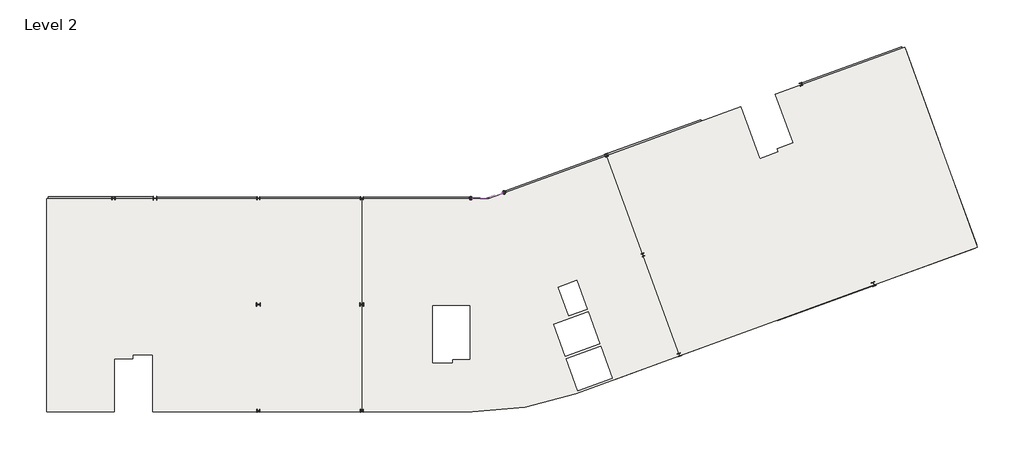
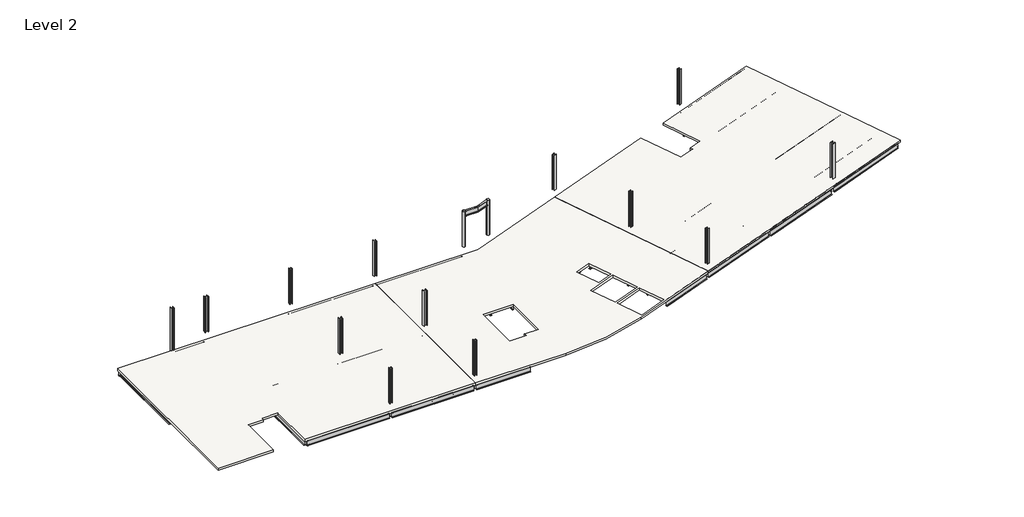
# One storey: 87 beams, 15 columns, 1 slab.
"""IFC4 building model written with IfcOpenShell, lengths in millimetres."""

from ifc_helpers import new_model, si_unit, point, frame, frame_2d, origin, place, context, project, spatial, polyline, circle_curve, trimmed, segment, composite_curve, outline, extrude, transform, mapped, element, save
from components import beam_fb4f222d, ub_universal_beams_ub305x127x37_f823aa85, ub_universal_beams_ub305x127x37_cdbcbb51, ub_universal_beams_ub305x127x37_8d1efc97, ub_universal_beams_ub305x127x37_2b7a043a, ub_universal_beams_ub305x127x37_8d2b0bf5, ub_universal_beams_ub305x127x37_777f85ab, ub_universal_beams_ub305x127x37_16a75a32, ub_universal_beams_ub305x127x37_b9a7bbe5, ub_universal_beams_ub305x127x37_60794b88, ub_universal_beams_ub305x127x37_0c249d50, ub_universal_beams_ub457x152x67_a95554c7, ub_universal_beams_ub457x152x67_b6dbdd7a, ub_universal_beams_ub457x152x67_9ada3ad7, ub_universal_beams_ub457x152x67_885cc86f, ub_universal_beams_ub457x152x67_c84566a2, ub_universal_beams_ub457x152x67_4841b023, ub_universal_beams_ub457x152x67_20791346, ub_universal_beams_ub457x152x67_59459dd6, ub_universal_beams_ub457x152x67_568b5c51, ub_universal_beams_ub457x152x67_e00400c9, ub_universal_beams_ub457x152x67_2db27d90, ub_universal_beams_ub457x152x67_feb0265b, ub_universal_beams_ub457x152x67_78ad538f, ub_universal_beams_ub457x152x67_801fcbf0, ub_universal_beams_ub457x152x67_7192e0ee, ub_universal_beams_ub457x152x67_f5dc209c, ub_universal_beams_ub457x152x67_21f5ef47, ub_universal_beams_ub457x152x67_7b4bcd9a, ub_universal_beams_ub457x152x67_37de3949, ub_universal_beams_ub457x152x67_656765b2, ub_universal_beams_ub457x152x67_43212cfb, ub_universal_beams_ub457x152x67_25e113f4, ub_universal_beams_ub457x152x67_bf94d013, ub_universal_beams_ub457x152x67_e915e172, ub_universal_beams_ub457x152x67_18d3feb0, ub_universal_beams_ub457x152x67_e0a47d06, ub_universal_beams_ub457x152x67_f862a4b8, ub_universal_beams_ub457x152x67_813faa96, ub_universal_beams_ub457x152x67_c91190e6, ub_universal_beams_ub533x210x82_8ec85ef7, ub_universal_beams_ub533x210x82_0fc11a2d, ub_universal_beams_ub533x210x82_892b370d, circular_hollow_sections_column_chs244_5x6_3_55d45f16, uc_universal_columns_column_uc203x203x71_df0e8a14, uc_universal_columns_column_uc254x254x132_67913ea7

model = new_model("IFC4")

# Units and contexts
model_context = context("Model", 3, world=origin())
ifc_project = project(units=[si_unit("LENGTHUNIT", "METRE", prefix="MILLI")], contexts=[model_context])

# Site, building, storey
site = spatial("IfcSite", under=ifc_project)
building = spatial("IfcBuilding", under=site)
storey = spatial("IfcBuildingStorey", under=building, Name="Level 2", Elevation=7595.0)

# Beams
placement = place(None, origin())
beam_shape = beam_fb4f222d(model_context)
element("IfcBeam", 1, ObjectType="Cranked Beam B3 : Cranked Beam B1", at=placement, inside=storey, context=model_context, shape_type="MappedRepresentation", body=[
    mapped(beam_shape, transform((0.0, 0.0, 0.0), x_axis=(1.0, 0.0, 0.0), y_axis=(0.0, 1.0, 0.0), z_axis=(0.0, 0.0, 1.0))),
])
ub_universal_beams_ub305x127x37_shape = ub_universal_beams_ub305x127x37_f823aa85(model_context)
element("IfcBeam", 2, ObjectType="UB-Universal Beams : UB305x127x37", at=placement, inside=storey, context=model_context, shape_type="MappedRepresentation", body=[
    mapped(ub_universal_beams_ub305x127x37_shape, transform((9887.2000022, 11613.2000005, 7442.8), x_axis=(0.0, 1.0, 0.0), y_axis=(-1.0, 0.0, 0.0), z_axis=(0.0, 0.0, 1.0))),
])
element("IfcBeam", 3, ObjectType="UB-Universal Beams : UB305x127x37", at=placement, inside=storey, context=model_context, shape_type="MappedRepresentation", body=[
    mapped(ub_universal_beams_ub305x127x37_shape, transform((11712.2000022, 11613.2000005, 7442.8), x_axis=(0.0, 1.0, 0.0), y_axis=(-1.0, 0.0, 0.0), z_axis=(0.0, 0.0, 1.0))),
])
element("IfcBeam", 4, ObjectType="UB-Universal Beams : UB305x127x37", at=placement, inside=storey, context=model_context, shape_type="MappedRepresentation", body=[
    mapped(ub_universal_beams_ub305x127x37_shape, transform((13537.2000023, 11613.2000005, 7442.8), x_axis=(0.0, 1.0, 0.0), y_axis=(-1.0, 0.0, 0.0), z_axis=(0.0, 0.0, 1.0))),
])
element("IfcBeam", 5, ObjectType="UB-Universal Beams : UB305x127x37", at=placement, inside=storey, context=model_context, shape_type="MappedRepresentation", body=[
    mapped(ub_universal_beams_ub305x127x37_shape, transform((17187.2000023, 11613.2000005, 7442.8), x_axis=(0.0, 1.0, 0.0), y_axis=(-1.0, 0.0, 0.0), z_axis=(0.0, 0.0, 1.0))),
])
element("IfcBeam", 6, ObjectType="UB-Universal Beams : UB305x127x37", at=placement, inside=storey, context=model_context, shape_type="MappedRepresentation", body=[
    mapped(ub_universal_beams_ub305x127x37_shape, transform((19012.2000023, 11613.2000005, 7442.8), x_axis=(0.0, 1.0, 0.0), y_axis=(-1.0, 0.0, 0.0), z_axis=(0.0, 0.0, 1.0))),
])
element("IfcBeam", 7, ObjectType="UB-Universal Beams : UB305x127x37", at=placement, inside=storey, context=model_context, shape_type="MappedRepresentation", body=[
    mapped(ub_universal_beams_ub305x127x37_shape, transform((20837.2000022, 11613.2000005, 7442.8), x_axis=(0.0, 1.0, 0.0), y_axis=(-1.0, 0.0, 0.0), z_axis=(0.0, 0.0, 1.0))),
])
element("IfcBeam", 8, ObjectType="UB-Universal Beams : UB305x127x37", at=placement, inside=storey, context=model_context, shape_type="MappedRepresentation", body=[
    mapped(ub_universal_beams_ub305x127x37_shape, transform((24587.2000022, 11613.2000005, 7442.8), x_axis=(0.0, 1.0, 0.0), y_axis=(-1.0, 0.0, 0.0), z_axis=(0.0, 0.0, 1.0))),
])
element("IfcBeam", 9, ObjectType="UB-Universal Beams : UB305x127x37", at=placement, inside=storey, context=model_context, shape_type="MappedRepresentation", body=[
    mapped(ub_universal_beams_ub305x127x37_shape, transform((26512.2000022, 11613.2000005, 7442.8), x_axis=(0.0, 1.0, 0.0), y_axis=(-1.0, 0.0, 0.0), z_axis=(0.0, 0.0, 1.0))),
])
element("IfcBeam", 10, ObjectType="UB-Universal Beams : UB305x127x37", at=placement, inside=storey, context=model_context, shape_type="MappedRepresentation", body=[
    mapped(ub_universal_beams_ub305x127x37_shape, transform((17187.2000022, 4113.2000005, 7442.8), x_axis=(0.0, 1.0, 0.0), y_axis=(-1.0, 0.0, 0.0), z_axis=(0.0, 0.0, 1.0))),
])
element("IfcBeam", 11, ObjectType="UB-Universal Beams : UB305x127x37", at=placement, inside=storey, context=model_context, shape_type="MappedRepresentation", body=[
    mapped(ub_universal_beams_ub305x127x37_shape, transform((19012.2000022, 4113.2000005, 7442.8), x_axis=(0.0, 1.0, 0.0), y_axis=(-1.0, 0.0, 0.0), z_axis=(0.0, 0.0, 1.0))),
])
element("IfcBeam", 12, ObjectType="UB-Universal Beams : UB305x127x37", at=placement, inside=storey, context=model_context, shape_type="MappedRepresentation", body=[
    mapped(ub_universal_beams_ub305x127x37_shape, transform((20837.2000022, 4113.2000005, 7442.8), x_axis=(0.0, 1.0, 0.0), y_axis=(-1.0, 0.0, 0.0), z_axis=(0.0, 0.0, 1.0))),
])
element("IfcBeam", 13, ObjectType="UB-Universal Beams : UB305x127x37", at=placement, inside=storey, context=model_context, shape_type="MappedRepresentation", body=[
    mapped(ub_universal_beams_ub305x127x37_shape, transform((24587.2000022, 4113.2000004, 7442.8), x_axis=(0.0, 1.0, 0.0), y_axis=(-1.0, 0.0, 0.0), z_axis=(0.0, 0.0, 1.0))),
])
element("IfcBeam", 14, ObjectType="UB-Universal Beams : UB305x127x37", at=placement, inside=storey, context=model_context, shape_type="MappedRepresentation", body=[
    mapped(ub_universal_beams_ub305x127x37_shape, transform((26512.2000022, 4113.2000004, 7442.8), x_axis=(0.0, 1.0, 0.0), y_axis=(-1.0, 0.0, 0.0), z_axis=(0.0, 0.0, 1.0))),
])
element("IfcBeam", 15, ObjectType="UB-Universal Beams : UB305x127x37", at=placement, inside=storey, context=model_context, shape_type="MappedRepresentation", body=[
    mapped(ub_universal_beams_ub305x127x37_shape, transform((39409.0148654, 14226.6858637, 7442.8), x_axis=(0.34202014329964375, -0.9396926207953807, 0.0), y_axis=(0.9396926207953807, 0.34202014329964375, 0.0), z_axis=(0.0, 0.0, 1.0))),
])
element("IfcBeam", 16, ObjectType="UB-Universal Beams : UB305x127x37", at=placement, inside=storey, context=model_context, shape_type="MappedRepresentation", body=[
    mapped(ub_universal_beams_ub305x127x37_shape, transform((37600.1065704, 13568.2970878, 7442.8), x_axis=(0.34202014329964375, -0.9396926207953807, 0.0), y_axis=(0.9396926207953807, 0.34202014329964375, 0.0), z_axis=(0.0, 0.0, 1.0))),
])
element("IfcBeam", 17, ObjectType="UB-Universal Beams : UB305x127x37", at=placement, inside=storey, context=model_context, shape_type="MappedRepresentation", body=[
    mapped(ub_universal_beams_ub305x127x37_shape, transform((42915.2429568, 15502.8485233, 7442.8), x_axis=(-0.3420201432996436, 0.9396926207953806, 0.0), y_axis=(-0.9396926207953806, -0.3420201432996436, 0.0), z_axis=(0.0, 0.0, 1.0))),
])
element("IfcBeam", 18, ObjectType="UB-Universal Beams : UB305x127x37", at=placement, inside=storey, context=model_context, shape_type="MappedRepresentation", body=[
    mapped(ub_universal_beams_ub305x127x37_shape, transform((44612.5627531, 16120.6224071, 7442.8), x_axis=(-0.34202014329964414, 0.9396926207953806, 0.0), y_axis=(-0.9396926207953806, -0.34202014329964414, 0.0), z_axis=(0.0, 0.0, 1.0))),
])
element("IfcBeam", 19, ObjectType="UB-Universal Beams : UB305x127x37", at=placement, inside=storey, context=model_context, shape_type="MappedRepresentation", body=[
    mapped(ub_universal_beams_ub305x127x37_shape, transform((46309.8825494, 16738.396291, 7442.8), x_axis=(-0.34202014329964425, 0.9396926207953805, 0.0), y_axis=(-0.9396926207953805, -0.34202014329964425, 0.0), z_axis=(0.0, 0.0, 1.0))),
])
ub_universal_beams_ub305x127x37_2_shape = ub_universal_beams_ub305x127x37_cdbcbb51(model_context)
element("IfcBeam", 20, ObjectType="UB-Universal Beams : UB305x127x37", at=placement, inside=storey, context=model_context, shape_type="MappedRepresentation", body=[
    mapped(ub_universal_beams_ub305x127x37_2_shape, transform((28437.2000022, 11613.2000005, 7442.8), x_axis=(0.0, 1.0, 0.0), y_axis=(-1.0, 0.0, 0.0), z_axis=(0.0, 0.0, 1.0))),
])
ub_universal_beams_ub305x127x37_3_shape = ub_universal_beams_ub305x127x37_8d1efc97(model_context)
element("IfcBeam", 21, ObjectType="UB-Universal Beams : UB305x127x37", at=placement, inside=storey, context=model_context, shape_type="MappedRepresentation", body=[
    mapped(ub_universal_beams_ub305x127x37_3_shape, transform((35791.1982754, 12909.908312, 7442.8), x_axis=(0.3420201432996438, -0.9396926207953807, 0.0), y_axis=(0.9396926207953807, 0.3420201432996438, 0.0), z_axis=(0.0, 0.0, 1.0))),
])
ub_universal_beams_ub305x127x37_4_shape = ub_universal_beams_ub305x127x37_2b7a043a(model_context)
element("IfcBeam", 22, ObjectType="UB-Universal Beams : UB305x127x37", at=placement, inside=storey, context=model_context, shape_type="MappedRepresentation", body=[
    mapped(ub_universal_beams_ub305x127x37_4_shape, transform((42122.1150828, 5237.5069684, 7442.8), x_axis=(-0.939692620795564, -0.3420201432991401, 0.0), y_axis=(0.3420201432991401, -0.939692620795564, 0.0), z_axis=(0.0, 0.0, 1.0))),
])
element("IfcBeam", 23, ObjectType="UB-Universal Beams : UB305x127x37", at=placement, inside=storey, context=model_context, shape_type="MappedRepresentation", body=[
    mapped(ub_universal_beams_ub305x127x37_4_shape, transform((41480.8273141, 6999.4306323, 7442.8), x_axis=(-0.9396926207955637, -0.3420201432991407, 0.0), y_axis=(0.3420201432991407, -0.9396926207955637, 0.0), z_axis=(0.0, 0.0, 1.0))),
])
element("IfcBeam", 24, ObjectType="UB-Universal Beams : UB305x127x37", at=placement, inside=storey, context=model_context, shape_type="MappedRepresentation", body=[
    mapped(ub_universal_beams_ub305x127x37_4_shape, transform((40839.5395455, 8761.3542963, 7442.8), x_axis=(-0.939692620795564, -0.3420201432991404, 0.0), y_axis=(0.3420201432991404, -0.939692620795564, 0.0), z_axis=(0.0, 0.0, 1.0))),
])
ub_universal_beams_ub305x127x37_5_shape = ub_universal_beams_ub305x127x37_8d2b0bf5(model_context)
element("IfcBeam", 25, ObjectType="UB-Universal Beams : UB305x127x37", at=placement, inside=storey, context=model_context, shape_type="MappedRepresentation", body=[
    mapped(ub_universal_beams_ub305x127x37_5_shape, transform((46536.4260592, 10834.8514152, 7442.8), x_axis=(0.9396926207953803, 0.342020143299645, 0.0), y_axis=(-0.342020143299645, 0.9396926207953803, 0.0), z_axis=(0.0, 0.0, 1.0))),
])
element("IfcBeam", 26, ObjectType="UB-Universal Beams : UB305x127x37", at=placement, inside=storey, context=model_context, shape_type="MappedRepresentation", body=[
    mapped(ub_universal_beams_ub305x127x37_5_shape, transform((47177.7138279, 9072.9277512, 7442.8), x_axis=(0.9396926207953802, 0.34202014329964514, 0.0), y_axis=(-0.34202014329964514, 0.9396926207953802, 0.0), z_axis=(0.0, 0.0, 1.0))),
])
element("IfcBeam", 27, ObjectType="UB-Universal Beams : UB305x127x37", at=placement, inside=storey, context=model_context, shape_type="MappedRepresentation", body=[
    mapped(ub_universal_beams_ub305x127x37_5_shape, transform((47819.0015966, 7311.0040872, 7442.8), x_axis=(0.9396926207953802, 0.3420201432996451, 0.0), y_axis=(-0.3420201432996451, 0.9396926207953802, 0.0), z_axis=(0.0, 0.0, 1.0))),
])
ub_universal_beams_ub305x127x37_6_shape = ub_universal_beams_ub305x127x37_777f85ab(model_context)
element("IfcBeam", 28, ObjectType="UB-Universal Beams : UB305x127x37", at=placement, inside=storey, context=model_context, shape_type="MappedRepresentation", body=[
    mapped(ub_universal_beams_ub305x127x37_6_shape, transform((60479.1153202, 15909.5752914, 7442.8), x_axis=(0.9396926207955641, 0.34202014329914, 0.0), y_axis=(-0.34202014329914, 0.9396926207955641, 0.0), z_axis=(0.0, 0.0, 1.0))),
])
element("IfcBeam", 29, ObjectType="UB-Universal Beams : UB305x127x37", at=placement, inside=storey, context=model_context, shape_type="MappedRepresentation", body=[
    mapped(ub_universal_beams_ub305x127x37_6_shape, transform((61120.4030889, 14147.6516274, 7442.8), x_axis=(0.9396926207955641, 0.34202014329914, 0.0), y_axis=(-0.34202014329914, 0.9396926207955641, 0.0), z_axis=(0.0, 0.0, 1.0))),
])
element("IfcBeam", 30, ObjectType="UB-Universal Beams : UB305x127x37", at=placement, inside=storey, context=model_context, shape_type="MappedRepresentation", body=[
    mapped(ub_universal_beams_ub305x127x37_6_shape, transform((61761.6908576, 12385.7279634, 7442.8), x_axis=(0.9396926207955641, 0.3420201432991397, 0.0), y_axis=(-0.3420201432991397, 0.9396926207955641, 0.0), z_axis=(0.0, 0.0, 1.0))),
])
element("IfcBeam", 31, ObjectType="UB-Universal Beams : UB305x127x37", at=placement, inside=storey, context=model_context, shape_type="MappedRepresentation", body=[
    mapped(ub_universal_beams_ub305x127x37_6_shape, transform((57913.9642455, 22957.2699473, 7442.8), x_axis=(0.9396926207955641, 0.3420201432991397, 0.0), y_axis=(-0.3420201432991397, 0.9396926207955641, 0.0), z_axis=(0.0, 0.0, 1.0))),
])
element("IfcBeam", 32, ObjectType="UB-Universal Beams : UB305x127x37", at=placement, inside=storey, context=model_context, shape_type="MappedRepresentation", body=[
    mapped(ub_universal_beams_ub305x127x37_6_shape, transform((58555.2520142, 21195.3462833, 7442.8), x_axis=(0.9396926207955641, 0.3420201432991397, 0.0), y_axis=(-0.3420201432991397, 0.9396926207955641, 0.0), z_axis=(0.0, 0.0, 1.0))),
])
element("IfcBeam", 33, ObjectType="UB-Universal Beams : UB305x127x37", at=placement, inside=storey, context=model_context, shape_type="MappedRepresentation", body=[
    mapped(ub_universal_beams_ub305x127x37_6_shape, transform((59196.5397829, 19433.4226193, 7442.8), x_axis=(0.9396926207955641, 0.3420201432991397, 0.0), y_axis=(-0.3420201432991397, 0.9396926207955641, 0.0), z_axis=(0.0, 0.0, 1.0))),
])
ub_universal_beams_ub305x127x37_7_shape = ub_universal_beams_ub305x127x37_16a75a32(model_context)
element("IfcBeam", 34, ObjectType="UB-Universal Beams : UB305x127x37", at=placement, inside=storey, context=model_context, shape_type="MappedRepresentation", body=[
    mapped(ub_universal_beams_ub305x127x37_7_shape, transform((52185.7228693, 11321.365084, 7442.8), x_axis=(0.9396926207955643, 0.3420201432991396, 0.0), y_axis=(-0.3420201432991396, 0.9396926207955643, 0.0), z_axis=(0.0, 0.0, 1.0))),
])
element("IfcBeam", 35, ObjectType="UB-Universal Beams : UB305x127x37", at=placement, inside=storey, context=model_context, shape_type="MappedRepresentation", body=[
    mapped(ub_universal_beams_ub305x127x37_7_shape, transform((51681.2431579, 12707.4116997, 7442.8), x_axis=(0.9396926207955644, 0.34202014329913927, 0.0), y_axis=(-0.34202014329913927, 0.9396926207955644, 0.0), z_axis=(0.0, 0.0, 1.0))),
])
ub_universal_beams_ub305x127x37_8_shape = ub_universal_beams_ub305x127x37_b9a7bbe5(model_context)
element("IfcBeam", 36, ObjectType="UB-Universal Beams : UB305x127x37", at=placement, inside=storey, context=model_context, shape_type="MappedRepresentation", body=[
    mapped(ub_universal_beams_ub305x127x37_8_shape, transform((55650.8394085, 12582.5643624, 7442.8), x_axis=(0.939692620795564, 0.34202014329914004, 0.0), y_axis=(-0.34202014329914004, 0.939692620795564, 0.0), z_axis=(0.0, 0.0, 1.0))),
])
element("IfcBeam", 37, ObjectType="UB-Universal Beams : UB305x127x37", at=placement, inside=storey, context=model_context, shape_type="MappedRepresentation", body=[
    mapped(ub_universal_beams_ub305x127x37_8_shape, transform((56300.6776807, 10797.1483829, 7442.8), x_axis=(0.9396926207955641, 0.3420201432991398, 0.0), y_axis=(-0.3420201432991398, 0.9396926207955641, 0.0), z_axis=(0.0, 0.0, 1.0))),
])
element("IfcBeam", 38, ObjectType="UB-Universal Beams : UB305x127x37", at=placement, inside=storey, context=model_context, shape_type="MappedRepresentation", body=[
    mapped(ub_universal_beams_ub305x127x37_8_shape, transform((55146.3596971, 13968.6109781, 7442.8), x_axis=(0.9396926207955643, 0.34202014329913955, 0.0), y_axis=(-0.34202014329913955, 0.9396926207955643, 0.0), z_axis=(0.0, 0.0, 1.0))),
])
ub_universal_beams_ub305x127x37_9_shape = ub_universal_beams_ub305x127x37_60794b88(model_context)
element("IfcBeam", 39, ObjectType="UB-Universal Beams : UB305x127x37", at=placement, inside=storey, context=model_context, shape_type="MappedRepresentation", body=[
    mapped(ub_universal_beams_ub305x127x37_9_shape, transform((53431.3248942, 21325.7226526, 7442.8), x_axis=(-0.939692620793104, -0.34202014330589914, 0.0), y_axis=(0.34202014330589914, -0.939692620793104, 0.0), z_axis=(0.0, 0.0, 1.0))),
])
element("IfcBeam", 40, ObjectType="UB-Universal Beams : UB305x127x37", at=placement, inside=storey, context=model_context, shape_type="MappedRepresentation", body=[
    mapped(ub_universal_beams_ub305x127x37_9_shape, transform((54072.6126629, 19563.7989886, 7442.8), x_axis=(-0.939692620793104, -0.3420201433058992, 0.0), y_axis=(0.3420201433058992, -0.939692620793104, 0.0), z_axis=(0.0, 0.0, 1.0))),
])
element("IfcBeam", 41, ObjectType="UB-Universal Beams : UB305x127x37", at=placement, inside=storey, context=model_context, shape_type="MappedRepresentation", body=[
    mapped(ub_universal_beams_ub305x127x37_9_shape, transform((54713.9004316, 17801.8753247, 7442.8), x_axis=(-0.939692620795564, -0.34202014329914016, 0.0), y_axis=(0.34202014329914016, -0.939692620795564, 0.0), z_axis=(0.0, 0.0, 1.0))),
])
ub_universal_beams_ub305x127x37_10_shape = ub_universal_beams_ub305x127x37_0c249d50(model_context)
element("IfcBeam", 42, ObjectType="UB-Universal Beams : UB305x127x37", at=placement, inside=storey, context=model_context, shape_type="MappedRepresentation", body=[
    mapped(ub_universal_beams_ub305x127x37_10_shape, transform((52835.5611416, 9535.9491045, 7442.8), x_axis=(-0.9396926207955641, -0.34202014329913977, 0.0), y_axis=(0.34202014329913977, -0.9396926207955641, 0.0), z_axis=(0.0, 0.0, 1.0))),
])
ub_universal_beams_ub457x152x67_shape = ub_universal_beams_ub457x152x67_a95554c7(model_context)
element("IfcBeam", 43, ObjectType="UB-Universal Beams : UB457x152x67", at=placement, inside=storey, context=model_context, shape_type="MappedRepresentation", body=[
    mapped(ub_universal_beams_ub457x152x67_shape, transform((19012.2000023, 15363.2000005, 7366.0), x_axis=(1.0, 0.0, 0.0), y_axis=(0.0, 1.0, 0.0), z_axis=(0.0, 0.0, 1.0))),
])
element("IfcBeam", 44, ObjectType="UB-Universal Beams : UB457x152x67", at=placement, inside=storey, context=model_context, shape_type="MappedRepresentation", body=[
    mapped(ub_universal_beams_ub457x152x67_shape, transform((19012.2000022, 363.2000005, 7366.0), x_axis=(1.0, 0.0, 0.0), y_axis=(0.0, 1.0, 0.0), z_axis=(0.0, 0.0, 1.0))),
])
ub_universal_beams_ub457x152x67_2_shape = ub_universal_beams_ub457x152x67_b6dbdd7a(model_context)
element("IfcBeam", 45, ObjectType="UB-Universal Beams : UB457x152x67", at=placement, inside=storey, context=model_context, shape_type="MappedRepresentation", body=[
    mapped(ub_universal_beams_ub457x152x67_2_shape, transform((26512.2000022, 15363.2000005, 7366.0), x_axis=(1.0, 0.0, 0.0), y_axis=(0.0, 1.0, 0.0), z_axis=(0.0, 0.0, 1.0))),
])
ub_universal_beams_ub457x152x67_3_shape = ub_universal_beams_ub457x152x67_9ada3ad7(model_context)
element("IfcBeam", 46, ObjectType="UB-Universal Beams : UB457x152x67", at=placement, inside=storey, context=model_context, shape_type="MappedRepresentation", body=[
    mapped(ub_universal_beams_ub457x152x67_3_shape, transform((11674.7000023, 7863.2000004, 7366.0), x_axis=(-1.0, 0.0, 0.0), y_axis=(0.0, -1.0, 0.0), z_axis=(0.0, 0.0, 1.0))),
])
ub_universal_beams_ub457x152x67_4_shape = ub_universal_beams_ub457x152x67_885cc86f(model_context)
element("IfcBeam", 47, ObjectType="UB-Universal Beams : UB457x152x67", at=placement, inside=storey, context=model_context, shape_type="MappedRepresentation", body=[
    mapped(ub_universal_beams_ub457x152x67_4_shape, transform((11674.7000023, 363.2000005, 7366.0), x_axis=(-1.0, 0.0, 0.0), y_axis=(0.0, -1.0, 0.0), z_axis=(0.0, 0.0, 1.0))),
])
ub_universal_beams_ub457x152x67_5_shape = ub_universal_beams_ub457x152x67_c84566a2(model_context)
element("IfcBeam", 48, ObjectType="UB-Universal Beams : UB457x152x67", at=placement, inside=storey, context=model_context, shape_type="MappedRepresentation", body=[
    mapped(ub_universal_beams_ub457x152x67_5_shape, transform((19012.2000023, 7863.2000004, 7366.0), x_axis=(1.0, 0.0, 0.0), y_axis=(0.0, 1.0, 0.0), z_axis=(0.0, 0.0, 1.0))),
])
ub_universal_beams_ub457x152x67_6_shape = ub_universal_beams_ub457x152x67_4841b023(model_context)
element("IfcBeam", 49, ObjectType="UB-Universal Beams : UB457x152x67", at=placement, inside=storey, context=model_context, shape_type="MappedRepresentation", body=[
    mapped(ub_universal_beams_ub457x152x67_6_shape, transform((25112.2000025, 7863.2000004, 7366.0), x_axis=(1.0, 0.0, 0.0), y_axis=(0.0, 1.0, 0.0), z_axis=(0.0, 0.0, 1.0))),
])
ub_universal_beams_ub457x152x67_7_shape = ub_universal_beams_ub457x152x67_20791346(model_context)
element("IfcBeam", 50, ObjectType="UB-Universal Beams : UB457x152x67", at=placement, inside=storey, context=model_context, shape_type="MappedRepresentation", body=[
    mapped(ub_universal_beams_ub457x152x67_7_shape, transform((25112.2000025, 363.2000005, 7366.0), x_axis=(1.0, 0.0, 0.0), y_axis=(0.0, 1.0, 0.0), z_axis=(0.0, 0.0, 1.0))),
])
ub_universal_beams_ub457x152x67_8_shape = ub_universal_beams_ub457x152x67_59459dd6(model_context)
element("IfcBeam", 51, ObjectType="UB-Universal Beams : UB457x152x67", at=placement, inside=storey, context=model_context, shape_type="MappedRepresentation", body=[
    mapped(ub_universal_beams_ub457x152x67_8_shape, transform((15362.2000023, 4113.2000005, 7366.0), x_axis=(0.0, 1.0, 0.0), y_axis=(-1.0, 0.0, 0.0), z_axis=(0.0, 0.0, 1.0))),
])
element("IfcBeam", 52, ObjectType="UB-Universal Beams : UB457x152x67", at=placement, inside=storey, context=model_context, shape_type="MappedRepresentation", body=[
    mapped(ub_universal_beams_ub457x152x67_8_shape, transform((22662.2000022, 4113.2000005, 7366.0), x_axis=(0.0, 1.0, 0.0), y_axis=(-1.0, 0.0, 0.0), z_axis=(0.0, 0.0, 1.0))),
])
ub_universal_beams_ub457x152x67_9_shape = ub_universal_beams_ub457x152x67_568b5c51(model_context)
element("IfcBeam", 53, ObjectType="UB-Universal Beams : UB457x152x67", at=placement, inside=storey, context=model_context, shape_type="MappedRepresentation", body=[
    mapped(ub_universal_beams_ub457x152x67_9_shape, transform((15362.2000023, 11613.2000005, 7366.0), x_axis=(0.0, 1.0, 0.0), y_axis=(-1.0, 0.0, 0.0), z_axis=(0.0, 0.0, 1.0))),
])
element("IfcBeam", 54, ObjectType="UB-Universal Beams : UB457x152x67", at=placement, inside=storey, context=model_context, shape_type="MappedRepresentation", body=[
    mapped(ub_universal_beams_ub457x152x67_9_shape, transform((22662.2000022, 11613.2000005, 7366.0), x_axis=(0.0, 1.0, 0.0), y_axis=(-1.0, 0.0, 0.0), z_axis=(0.0, 0.0, 1.0))),
])
ub_universal_beams_ub457x152x67_10_shape = ub_universal_beams_ub457x152x67_e00400c9(model_context)
element("IfcBeam", 55, ObjectType="UB-Universal Beams : UB457x152x67", at=placement, inside=storey, context=model_context, shape_type="MappedRepresentation", body=[
    mapped(ub_universal_beams_ub457x152x67_10_shape, transform((30362.2000022, 11613.2000005, 7366.0), x_axis=(0.0, 1.0, 0.0), y_axis=(-1.0, 0.0, 0.0), z_axis=(0.0, 0.0, 1.0))),
])
ub_universal_beams_ub457x152x67_11_shape = ub_universal_beams_ub457x152x67_2db27d90(model_context)
element("IfcBeam", 56, ObjectType="UB-Universal Beams : UB457x152x67", at=placement, inside=storey, context=model_context, shape_type="MappedRepresentation", body=[
    mapped(ub_universal_beams_ub457x152x67_11_shape, transform((33982.2899804, 12251.5195361, 7366.0), x_axis=(0.3420201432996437, -0.9396926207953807, 0.0), y_axis=(0.9396926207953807, 0.3420201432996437, 0.0), z_axis=(0.0, 0.0, 1.0))),
])
ub_universal_beams_ub457x152x67_12_shape = ub_universal_beams_ub457x152x67_feb0265b(model_context)
element("IfcBeam", 57, ObjectType="UB-Universal Beams : UB457x152x67", at=placement, inside=storey, context=model_context, shape_type="MappedRepresentation", body=[
    mapped(ub_universal_beams_ub457x152x67_12_shape, transform((32191.7898055, 11821.5156209, 7366.0), x_axis=(0.173648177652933, -0.9848077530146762, 0.0), y_axis=(0.9848077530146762, 0.173648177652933, 0.0), z_axis=(0.0, 0.0, 1.0))),
])
ub_universal_beams_ub457x152x67_13_shape = ub_universal_beams_ub457x152x67_78ad538f(model_context)
element("IfcBeam", 58, ObjectType="UB-Universal Beams : UB457x152x67", at=placement, inside=storey, context=model_context, shape_type="MappedRepresentation", body=[
    mapped(ub_universal_beams_ub457x152x67_13_shape, transform((31317.5755278, 11361.2273115, 7366.0), x_axis=(1.0, 0.0, 0.0), y_axis=(0.0, 1.0, 0.0), z_axis=(0.0, 0.0, 1.0))),
])
ub_universal_beams_ub457x152x67_14_shape = ub_universal_beams_ub457x152x67_801fcbf0(model_context)
element("IfcBeam", 59, ObjectType="UB-Universal Beams : UB457x152x67", at=placement, inside=storey, context=model_context, shape_type="MappedRepresentation", body=[
    mapped(ub_universal_beams_ub457x152x67_14_shape, transform((33170.7103845, 11687.9849855, 7366.0), x_axis=(0.9396926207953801, 0.3420201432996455, 0.0), y_axis=(-0.3420201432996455, 0.9396926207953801, 0.0), z_axis=(0.0, 0.0, 1.0))),
])
ub_universal_beams_ub457x152x67_15_shape = ub_universal_beams_ub457x152x67_7192e0ee(model_context)
element("IfcBeam", 60, ObjectType="UB-Universal Beams : UB457x152x67", at=placement, inside=storey, context=model_context, shape_type="MappedRepresentation", body=[
    mapped(ub_universal_beams_ub457x152x67_15_shape, transform((43329.9872158, 19644.4697351, 7366.0), x_axis=(0.9396926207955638, 0.3420201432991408, 0.0), y_axis=(-0.3420201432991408, 0.9396926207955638, 0.0), z_axis=(0.0, 0.0, 1.0))),
])
ub_universal_beams_ub457x152x67_16_shape = ub_universal_beams_ub457x152x67_f5dc209c(model_context)
element("IfcBeam", 61, ObjectType="UB-Universal Beams : UB457x152x67", at=placement, inside=storey, context=model_context, shape_type="MappedRepresentation", body=[
    mapped(ub_universal_beams_ub457x152x67_16_shape, transform((64738.219679, 15464.4291791, 7366.0), x_axis=(-0.34202014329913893, 0.9396926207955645, 0.0), y_axis=(-0.9396926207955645, -0.34202014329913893, 0.0), z_axis=(0.0, 0.0, 1.0))),
])
element("IfcBeam", 62, ObjectType="UB-Universal Beams : UB457x152x67", at=placement, inside=storey, context=model_context, shape_type="MappedRepresentation", body=[
    mapped(ub_universal_beams_ub457x152x67_16_shape, transform((62173.0686043, 22512.123835, 7366.0), x_axis=(-0.3420201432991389, 0.9396926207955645, 0.0), y_axis=(-0.9396926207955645, -0.3420201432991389, 0.0), z_axis=(0.0, 0.0, 1.0))),
])
ub_universal_beams_ub457x152x67_17_shape = ub_universal_beams_ub457x152x67_21f5ef47(model_context)
element("IfcBeam", 63, ObjectType="UB-Universal Beams : UB457x152x67", at=placement, inside=storey, context=model_context, shape_type="MappedRepresentation", body=[
    mapped(ub_universal_beams_ub457x152x67_17_shape, transform((57272.6764768, 24719.1936113, 7366.0), x_axis=(-0.9396926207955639, -0.3420201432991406, 0.0), y_axis=(0.3420201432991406, -0.9396926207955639, 0.0), z_axis=(0.0, 0.0, 1.0))),
])
ub_universal_beams_ub457x152x67_18_shape = ub_universal_beams_ub457x152x67_7b4bcd9a(model_context)
element("IfcBeam", 64, ObjectType="UB-Universal Beams : UB457x152x67", at=placement, inside=storey, context=model_context, shape_type="MappedRepresentation", body=[
    mapped(ub_universal_beams_ub457x152x67_18_shape, transform((54937.4354241, 19878.5687316, 7366.0), x_axis=(-0.3420201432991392, 0.9396926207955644, 0.0), y_axis=(-0.9396926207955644, -0.3420201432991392, 0.0), z_axis=(0.0, 0.0, 1.0))),
])
ub_universal_beams_ub457x152x67_19_shape = ub_universal_beams_ub457x152x67_37de3949(model_context)
element("IfcBeam", 65, ObjectType="UB-Universal Beams : UB457x152x67", at=placement, inside=storey, context=model_context, shape_type="MappedRepresentation", body=[
    mapped(ub_universal_beams_ub457x152x67_19_shape, transform((59849.5737093, 17675.7742072, 7366.0), x_axis=(0.9396926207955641, 0.3420201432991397, 0.0), y_axis=(-0.3420201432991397, 0.9396926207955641, 0.0), z_axis=(0.0, 0.0, 1.0))),
])
ub_universal_beams_ub457x152x67_20_shape = ub_universal_beams_ub457x152x67_656765b2(model_context)
element("IfcBeam", 66, ObjectType="UB-Universal Beams : UB457x152x67", at=placement, inside=storey, context=model_context, shape_type="MappedRepresentation", body=[
    mapped(ub_universal_beams_ub457x152x67_20_shape, transform((62402.9786263, 10623.8042994, 7366.0), x_axis=(0.9396926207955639, 0.34202014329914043, 0.0), y_axis=(-0.34202014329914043, 0.9396926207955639, 0.0), z_axis=(0.0, 0.0, 1.0))),
])
ub_universal_beams_ub457x152x67_21_shape = ub_universal_beams_ub457x152x67_43212cfb(model_context)
element("IfcBeam", 67, ObjectType="UB-Universal Beams : UB457x152x67", at=placement, inside=storey, context=model_context, shape_type="MappedRepresentation", body=[
    mapped(ub_universal_beams_ub457x152x67_21_shape, transform((57502.5864988, 12830.8740757, 7366.0), x_axis=(0.3420201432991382, -0.9396926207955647, 0.0), y_axis=(0.9396926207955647, 0.3420201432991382, 0.0), z_axis=(0.0, 0.0, 1.0))),
])
ub_universal_beams_ub457x152x67_22_shape = ub_universal_beams_ub457x152x67_25e113f4(model_context)
element("IfcBeam", 68, ObjectType="UB-Universal Beams : UB457x152x67", at=placement, inside=storey, context=model_context, shape_type="MappedRepresentation", body=[
    mapped(ub_universal_beams_ub457x152x67_22_shape, transform((614.1000027, 11575.7000004, 7366.0), x_axis=(0.0, 1.0, 0.0), y_axis=(-1.0, 0.0, 0.0), z_axis=(0.0, 0.0, 1.0))),
])
element("IfcBeam", 69, ObjectType="UB-Universal Beams : UB457x152x67", at=placement, inside=storey, context=model_context, shape_type="MappedRepresentation", body=[
    mapped(ub_universal_beams_ub457x152x67_22_shape, transform((2457.6125027, 11575.7000004, 7366.0), x_axis=(0.0, 1.0, 0.0), y_axis=(-1.0, 0.0, 0.0), z_axis=(0.0, 0.0, 1.0))),
])
element("IfcBeam", 70, ObjectType="UB-Universal Beams : UB457x152x67", at=placement, inside=storey, context=model_context, shape_type="MappedRepresentation", body=[
    mapped(ub_universal_beams_ub457x152x67_22_shape, transform((4301.1250026, 11575.7000004, 7366.0), x_axis=(0.0, 1.0, 0.0), y_axis=(-1.0, 0.0, 0.0), z_axis=(0.0, 0.0, 1.0))),
])
element("IfcBeam", 71, ObjectType="UB-Universal Beams : UB457x152x67", at=placement, inside=storey, context=model_context, shape_type="MappedRepresentation", body=[
    mapped(ub_universal_beams_ub457x152x67_22_shape, transform((6144.6375025, 11575.7000005, 7366.0), x_axis=(0.0, 1.0, 0.0), y_axis=(-1.0, 0.0, 0.0), z_axis=(0.0, 0.0, 1.0))),
])
ub_universal_beams_ub457x152x67_23_shape = ub_universal_beams_ub457x152x67_bf94d013(model_context)
element("IfcBeam", 72, ObjectType="UB-Universal Beams : UB457x152x67", at=placement, inside=storey, context=model_context, shape_type="MappedRepresentation", body=[
    mapped(ub_universal_beams_ub457x152x67_23_shape, transform((9831.6625024, 4113.2000005, 7366.0), x_axis=(0.0, 1.0, 0.0), y_axis=(-1.0, 0.0, 0.0), z_axis=(0.0, 0.0, 1.0))),
])
element("IfcBeam", 73, ObjectType="UB-Universal Beams : UB457x152x67", at=placement, inside=storey, context=model_context, shape_type="MappedRepresentation", body=[
    mapped(ub_universal_beams_ub457x152x67_23_shape, transform((11675.1750024, 4113.2000005, 7366.0), x_axis=(0.0, 1.0, 0.0), y_axis=(-1.0, 0.0, 0.0), z_axis=(0.0, 0.0, 1.0))),
])
element("IfcBeam", 74, ObjectType="UB-Universal Beams : UB457x152x67", at=placement, inside=storey, context=model_context, shape_type="MappedRepresentation", body=[
    mapped(ub_universal_beams_ub457x152x67_23_shape, transform((13518.6875023, 4113.2000005, 7366.0), x_axis=(0.0, 1.0, 0.0), y_axis=(-1.0, 0.0, 0.0), z_axis=(0.0, 0.0, 1.0))),
])
ub_universal_beams_ub457x152x67_24_shape = ub_universal_beams_ub457x152x67_e915e172(model_context)
element("IfcBeam", 75, ObjectType="UB-Universal Beams : UB457x152x67", at=placement, inside=storey, context=model_context, shape_type="MappedRepresentation", body=[
    mapped(ub_universal_beams_ub457x152x67_24_shape, transform((11712.2000023, 15363.2000005, 7366.0), x_axis=(1.0, 0.0, 0.0), y_axis=(0.0, 1.0, 0.0), z_axis=(0.0, 0.0, 1.0))),
])
ub_universal_beams_ub457x152x67_25_shape = ub_universal_beams_ub457x152x67_18d3feb0(model_context)
element("IfcBeam", 76, ObjectType="UB-Universal Beams : UB457x152x67", at=placement, inside=storey, context=model_context, shape_type="MappedRepresentation", body=[
    mapped(ub_universal_beams_ub457x152x67_25_shape, transform((8062.2000022, 11613.2000005, 7366.0), x_axis=(0.0, 1.0, 0.0), y_axis=(-1.0, 0.0, 0.0), z_axis=(0.0, 0.0, 1.0))),
])
element("IfcBeam", 77, ObjectType="UB-Universal Beams : UB457x152x67", at=placement, inside=storey, context=model_context, shape_type="MappedRepresentation", body=[
    mapped(ub_universal_beams_ub457x152x67_16_shape, transform((41217.9231605, 14885.0746394, 7366.0), x_axis=(-0.3420201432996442, 0.9396926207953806, 0.0), y_axis=(-0.9396926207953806, -0.3420201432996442, 0.0), z_axis=(0.0, 0.0, 1.0))),
])
element("IfcBeam", 78, ObjectType="UB-Universal Beams : UB457x152x67", at=placement, inside=storey, context=model_context, shape_type="MappedRepresentation", body=[
    mapped(ub_universal_beams_ub457x152x67_16_shape, transform((43783.0742352, 7837.3799835, 7366.0), x_axis=(-0.3420201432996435, 0.939692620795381, 0.0), y_axis=(-0.939692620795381, -0.3420201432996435, 0.0), z_axis=(0.0, 0.0, 1.0))),
])
element("IfcBeam", 79, ObjectType="UB-Universal Beams : UB457x152x67", at=placement, inside=storey, context=model_context, shape_type="MappedRepresentation", body=[
    mapped(ub_universal_beams_ub457x152x67_15_shape, transform((45895.1382905, 12596.7750792, 7366.0), x_axis=(0.9396926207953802, 0.34202014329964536, 0.0), y_axis=(-0.34202014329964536, 0.9396926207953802, 0.0), z_axis=(0.0, 0.0, 1.0))),
])
element("IfcBeam", 80, ObjectType="UB-Universal Beams : UB457x152x67", at=placement, inside=storey, context=model_context, shape_type="MappedRepresentation", body=[
    mapped(ub_universal_beams_ub457x152x67_15_shape, transform((48460.2893652, 5549.0804232, 7366.0), x_axis=(0.9396926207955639, 0.3420201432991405, 0.0), y_axis=(-0.3420201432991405, 0.9396926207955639, 0.0), z_axis=(0.0, 0.0, 1.0))),
])
ub_universal_beams_ub457x152x67_26_shape = ub_universal_beams_ub457x152x67_e0a47d06(model_context)
element("IfcBeam", 81, ObjectType="UB-Universal Beams : UB457x152x67", at=placement, inside=storey, context=model_context, shape_type="MappedRepresentation", body=[
    mapped(ub_universal_beams_ub457x152x67_26_shape, transform((40198.2517768, 10523.2779603, 7366.0), x_axis=(0.9396926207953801, 0.34202014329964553, 0.0), y_axis=(-0.34202014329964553, 0.9396926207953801, 0.0), z_axis=(0.0, 0.0, 1.0))),
])
ub_universal_beams_ub457x152x67_27_shape = ub_universal_beams_ub457x152x67_f862a4b8(model_context)
element("IfcBeam", 82, ObjectType="UB-Universal Beams : UB457x152x67", at=placement, inside=storey, context=model_context, shape_type="MappedRepresentation", body=[
    mapped(ub_universal_beams_ub457x152x67_27_shape, transform((42763.4028515, 3475.5833044, 7366.0), x_axis=(-0.9396926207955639, -0.34202014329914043, 0.0), y_axis=(0.34202014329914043, -0.9396926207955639, 0.0), z_axis=(0.0, 0.0, 1.0))),
])
ub_universal_beams_ub457x152x67_28_shape = ub_universal_beams_ub457x152x67_813faa96(model_context)
element("IfcBeam", 83, ObjectType="UB-Universal Beams : UB457x152x67", at=placement, inside=storey, context=model_context, shape_type="MappedRepresentation", body=[
    mapped(ub_universal_beams_ub457x152x67_28_shape, transform((7988.1500025, 7863.2000005, 7366.0), x_axis=(0.0, 1.0, 0.0), y_axis=(-1.0, 0.0, 0.0), z_axis=(0.0, 0.0, 1.0))),
])
ub_universal_beams_ub457x152x67_29_shape = ub_universal_beams_ub457x152x67_c91190e6(model_context)
element("IfcBeam", 84, ObjectType="UB-Universal Beams : UB457x152x67", at=placement, inside=storey, context=model_context, shape_type="MappedRepresentation", body=[
    mapped(ub_universal_beams_ub457x152x67_29_shape, transform((36317.5310328, 17092.1444158, 7366.0), x_axis=(0.9396926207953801, 0.3420201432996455, 0.0), y_axis=(-0.3420201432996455, 0.9396926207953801, 0.0), z_axis=(0.0, 0.0, 1.0))),
])
ub_universal_beams_ub533x210x82_shape = ub_universal_beams_ub533x210x82_8ec85ef7(model_context)
element("IfcBeam", 85, ObjectType="UB-Universal Beams : UB533x210x82", at=placement, inside=storey, context=model_context, shape_type="MappedRepresentation", body=[
    mapped(ub_universal_beams_ub533x210x82_shape, transform((54042.3541451, 11665.8982726, 7330.85), x_axis=(-0.34202014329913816, 0.9396926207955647, 0.0), y_axis=(-0.9396926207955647, -0.34202014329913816, 0.0), z_axis=(0.0, 0.0, 1.0))),
])
ub_universal_beams_ub533x210x82_2_shape = ub_universal_beams_ub533x210x82_0fc11a2d(model_context)
element("IfcBeam", 86, ObjectType="UB-Universal Beams : UB533x210x82", at=placement, inside=storey, context=model_context, shape_type="MappedRepresentation", body=[
    mapped(ub_universal_beams_ub533x210x82_2_shape, transform((55320.045497, 8045.8274693, 7330.85), x_axis=(0.9396926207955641, 0.3420201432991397, 0.0), y_axis=(-0.3420201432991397, 0.9396926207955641, 0.0), z_axis=(0.0, 0.0, 1.0))),
])
ub_universal_beams_ub533x210x82_3_shape = ub_universal_beams_ub533x210x82_892b370d(model_context)
element("IfcBeam", 87, ObjectType="UB-Universal Beams : UB533x210x82", at=placement, inside=storey, context=model_context, shape_type="MappedRepresentation", body=[
    mapped(ub_universal_beams_ub533x210x82_3_shape, transform((4212.2000022, 15363.2000005, 7330.85), x_axis=(1.0, 0.0, 0.0), y_axis=(0.0, 1.0, 0.0), z_axis=(0.0, 0.0, 1.0))),
])

# Columns
circular_hollow_sections_column_chs244_5x6_3_shape = circular_hollow_sections_column_chs244_5x6_3_55d45f16(model_context)
element("IfcColumn", 88, ObjectType="Circular Hollow Sections-Column : CHS244.5x6.3", at=placement, inside=storey, context=model_context, shape_type="MappedRepresentation", body=[
    mapped(circular_hollow_sections_column_chs244_5x6_3_shape, transform((30362.2000022, 15363.2000005, 0.0), x_axis=(0.0, 1.0, 0.0), y_axis=(-1.0, 0.0, 0.0), z_axis=(0.0, 0.0, 1.0))),
])
element("IfcColumn", 89, ObjectType="Circular Hollow Sections-Column : CHS244.5x6.3", at=placement, inside=storey, context=model_context, shape_type="MappedRepresentation", body=[
    mapped(circular_hollow_sections_column_chs244_5x6_3_shape, transform((32699.714443, 15775.3668642, 0.0), x_axis=(1.0, 0.0, 0.0), y_axis=(0.0, 1.0, 0.0), z_axis=(0.0, 0.0, 1.0))),
])
element("IfcColumn", 90, ObjectType="UC-Universal Columns-Column : UC203x203x71", at=placement, inside=storey, context=model_context, shape_type="SweptSolid", body=[
    extrude(outline(composite_curve([segment(polyline([(5023.9666692, 15466.4000005), (5041.2666692, 15466.4000005), (5041.2666692, 15378.4000005)]), True, "CONTINUOUS"), segment(trimmed(circle_curve(frame_2d((5051.4666692, 15378.4000005)), 10.2), [point((5041.2666692, 15378.4000005))], [point((5051.4666692, 15368.2000005))], True, "CARTESIAN"), True, "CONTINUOUS"), segment(polyline([(5051.4666692, 15368.2000005), (5212.2666692, 15368.2000005)]), True, "CONTINUOUS"), segment(trimmed(circle_curve(frame_2d((5212.2666692, 15378.4000005)), 10.2), [point((5212.2666692, 15368.2000005))], [point((5222.4666692, 15378.4000005))], True, "CARTESIAN"), True, "CONTINUOUS"), segment(polyline([(5222.4666692, 15378.4000005), (5222.4666692, 15466.4000005), (5239.7666692, 15466.4000005), (5239.7666692, 15260.0000005), (5222.4666692, 15260.0000005), (5222.4666692, 15348.0000005)]), True, "CONTINUOUS"), segment(trimmed(circle_curve(frame_2d((5212.2666692, 15348.0000005)), 10.2), [point((5222.4666692, 15348.0000005))], [point((5212.2666692, 15358.2000005))], True, "CARTESIAN"), True, "CONTINUOUS"), segment(polyline([(5212.2666692, 15358.2000005), (5051.4666692, 15358.2000005)]), True, "CONTINUOUS"), segment(trimmed(circle_curve(frame_2d((5051.4666692, 15348.0000005)), 10.2), [point((5051.4666692, 15358.2000005))], [point((5041.2666692, 15348.0000005))], True, "CARTESIAN"), True, "CONTINUOUS"), segment(polyline([(5041.2666692, 15348.0000005), (5041.2666692, 15260.0000005), (5023.9666692, 15260.0000005), (5023.9666692, 15466.4000005)]), True, "CONTINUOUS")], self_intersect=False)), frame((0.0, 0.0, 7595.0), z_axis=(0.0, 0.0, 1.0), x_axis=(1.0, 0.0, 0.0)), (0.0, 0.0, 1.0), 4105.0),
])
uc_universal_columns_column_uc203x203x71_shape = uc_universal_columns_column_uc203x203x71_df0e8a14(model_context)
element("IfcColumn", 91, ObjectType="UC-Universal Columns-Column : UC203x203x71", at=placement, inside=storey, context=model_context, shape_type="MappedRepresentation", body=[
    mapped(uc_universal_columns_column_uc203x203x71_shape, transform((22662.2000023, 15363.2000005, 0.0), x_axis=(0.0, 1.0, 0.0), y_axis=(-1.0, 0.0, 0.0), z_axis=(0.0, 0.0, 1.0))),
])
element("IfcColumn", 92, ObjectType="UC-Universal Columns-Column : UC203x203x71", at=placement, inside=storey, context=model_context, shape_type="MappedRepresentation", body=[
    mapped(uc_universal_columns_column_uc203x203x71_shape, transform((15362.2000023, 15363.2000005, 0.0), x_axis=(0.0, 1.0, 0.0), y_axis=(-1.0, 0.0, 0.0), z_axis=(0.0, 0.0, 1.0))),
])
element("IfcColumn", 93, ObjectType="UC-Universal Columns-Column : UC203x203x71", at=placement, inside=storey, context=model_context, shape_type="MappedRepresentation", body=[
    mapped(uc_universal_columns_column_uc203x203x71_shape, transform((15362.2000023, 363.2000005, 0.0), x_axis=(0.0, 1.0, 0.0), y_axis=(-1.0, 0.0, 0.0), z_axis=(0.0, 0.0, 1.0))),
])
element("IfcColumn", 94, ObjectType="UC-Universal Columns-Column : UC203x203x71", at=placement, inside=storey, context=model_context, shape_type="MappedRepresentation", body=[
    mapped(uc_universal_columns_column_uc203x203x71_shape, transform((22662.2000022, 363.2000005, 0.0), x_axis=(0.0, 1.0, 0.0), y_axis=(-1.0, 0.0, 0.0), z_axis=(0.0, 0.0, 1.0))),
])
element("IfcColumn", 95, ObjectType="UC-Universal Columns-Column : UC203x203x71", at=placement, inside=storey, context=model_context, shape_type="MappedRepresentation", body=[
    mapped(uc_universal_columns_column_uc203x203x71_shape, transform((42500.4986978, 11361.2273115, 0.0), x_axis=(0.9396926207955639, 0.3420201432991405, 0.0), y_axis=(-0.3420201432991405, 0.9396926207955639, 0.0), z_axis=(0.0, 0.0, 1.0))),
])
element("IfcColumn", 96, ObjectType="UC-Universal Columns-Column : UC203x203x71", at=placement, inside=storey, context=model_context, shape_type="MappedRepresentation", body=[
    mapped(uc_universal_columns_column_uc203x203x71_shape, transform((39935.3476231, 18408.9219674, 0.0), x_axis=(0.9396926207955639, 0.3420201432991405, 0.0), y_axis=(-0.3420201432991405, 0.9396926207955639, 0.0), z_axis=(0.0, 0.0, 1.0))),
])
element("IfcColumn", 97, ObjectType="UC-Universal Columns-Column : UC203x203x71", at=placement, inside=storey, context=model_context, shape_type="MappedRepresentation", body=[
    mapped(uc_universal_columns_column_uc203x203x71_shape, transform((53654.8598867, 23402.4160596, 0.0), x_axis=(0.9396926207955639, 0.3420201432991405, 0.0), y_axis=(-0.3420201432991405, 0.9396926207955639, 0.0), z_axis=(0.0, 0.0, 1.0))),
])
element("IfcColumn", 98, ObjectType="UC-Universal Columns-Column : UC203x203x71", at=placement, inside=storey, context=model_context, shape_type="MappedRepresentation", body=[
    mapped(uc_universal_columns_column_uc203x203x71_shape, transform((45065.6497726, 4313.5326555, 0.0), x_axis=(0.939692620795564, 0.3420201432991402, 0.0), y_axis=(-0.3420201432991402, 0.939692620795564, 0.0), z_axis=(0.0, 0.0, 1.0))),
])
uc_universal_columns_column_uc254x254x132_shape = uc_universal_columns_column_uc254x254x132_67913ea7(model_context)
element("IfcColumn", 99, ObjectType="UC-Universal Columns-Column : UC254x254x132", at=placement, inside=storey, context=model_context, shape_type="MappedRepresentation", body=[
    mapped(uc_universal_columns_column_uc254x254x132_shape, transform((15362.2000023, 7863.2000004, 0.0), x_axis=(0.0, 1.0, 0.0), y_axis=(-1.0, 0.0, 0.0), z_axis=(0.0, 0.0, 1.0))),
])
element("IfcColumn", 100, ObjectType="UC-Universal Columns-Column : UC254x254x132", at=placement, inside=storey, context=model_context, shape_type="MappedRepresentation", body=[
    mapped(uc_universal_columns_column_uc254x254x132_shape, transform((22662.2000022, 7863.2000004, 0.0), x_axis=(0.0, 1.0, 0.0), y_axis=(-1.0, 0.0, 0.0), z_axis=(0.0, 0.0, 1.0))),
])
element("IfcColumn", 101, ObjectType="UC-Universal Columns-Column : UC254x254x132", at=placement, inside=storey, context=model_context, shape_type="MappedRepresentation", body=[
    mapped(uc_universal_columns_column_uc254x254x132_shape, transform((8062.2000022, 15363.2000005, 0.0), x_axis=(0.0, 1.0, 0.0), y_axis=(-1.0, 0.0, 0.0), z_axis=(0.0, 0.0, 1.0))),
])
element("IfcColumn", 102, ObjectType="UC-Universal Columns-Column : UC254x254x132", at=placement, inside=storey, context=model_context, shape_type="MappedRepresentation", body=[
    mapped(uc_universal_columns_column_uc254x254x132_shape, transform((58785.1620362, 9307.0267477, 0.0), x_axis=(0.9396926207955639, 0.3420201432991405, 0.0), y_axis=(-0.3420201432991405, 0.9396926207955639, 0.0), z_axis=(0.0, 0.0, 1.0))),
])

# Slab
element("IfcSlab", 103, ObjectType="RC COMP 175", at=placement, inside=storey, context=model_context, shape_type="SweptSolid", body=[
    extrude(outline(polyline([(39950.6701255, 18366.823738), (49412.7637168, 21810.7441587), (50743.9061145, 18153.4604787), (52050.0788572, 18628.8684778), (51964.5738214, 18863.791633), (53092.2049665, 19274.215805), (51846.5676046, 22696.5763298), (60969.2448211, 26016.9592931), (66109.9443828, 11893.0033256), (45091.3696873, 4242.8677705), (39950.6701255, 18366.823738)])), frame((0.0, 0.0, 7595.0), z_axis=(0.0, 0.0, 1.0), x_axis=(1.0, 0.0, 0.0)), (0.0, 0.0, 1.0), 200.0),
    extrude(outline(polyline([(22662.2000022, 288.0), (7887.2000024, 288.0), (7887.2000024, 4300.0), (6497.2000024, 4300.0), (6497.2000024, 4050.0), (5180.4333362, 4050.0), (5180.4333362, 288.0), (408.0, 288.0), (408.0000025, 15318.4000008), (22662.2000023, 15318.4000005), (22662.2000022, 288.0)])), frame((0.0, 0.0, 7595.0), z_axis=(0.0, 0.0, 1.0), x_axis=(1.0, 0.0, 0.0)), (0.0, 0.0, 1.0), 200.0),
    extrude(outline(composite_curve([segment(polyline([(30462.2000024, 288.0), (22662.2000022, 288.0), (22662.2000023, 15318.4000005), (31575.1947409, 15318.4000004), (39950.6701255, 18366.823738), (45091.3696873, 4242.8677705), (37761.7672424, 1575.1106518)]), True, "CONTINUOUS"), segment(trimmed(circle_curve(frame_2d((30462.2000024, 21630.5068175)), 21342.5068175), [point((37761.7672424, 1575.1106518))], [point((30462.2000024, 288.0))], False, "CARTESIAN"), True, "CONTINUOUS")], self_intersect=False), holes=[polyline([(37836.2376079, 9557.1573328), (36520.667939, 9078.3291322), (37254.4424652, 7062.3001903), (38570.0121342, 7541.1283909), (37836.2376079, 9557.1573328)]), polyline([(38637.9760474, 7354.3990738), (36194.7752334, 6465.1467012), (37016.0636927, 4208.6752042), (39459.2645067, 5097.9275768), (38637.9760474, 7354.3990738)]), polyline([(39527.6685354, 4909.9890526), (37084.4677213, 4020.73668), (37905.7561806, 1764.2651831), (40348.9569947, 2653.5175556), (39527.6685354, 4909.9890526)]), polyline([(27662.2000028, 7763.2000004), (27662.2000028, 3763.2000006), (29052.2000029, 3763.2000006), (29052.2000029, 4013.2000006), (30262.2000024, 4013.2000006), (30262.2000024, 7763.2000004), (27662.2000028, 7763.2000004)])]), frame((0.0, 0.0, 7595.0), z_axis=(0.0, 0.0, 1.0), x_axis=(1.0, 0.0, 0.0)), (0.0, 0.0, 1.0), 200.0),
])

save(model, "model.ifc")
